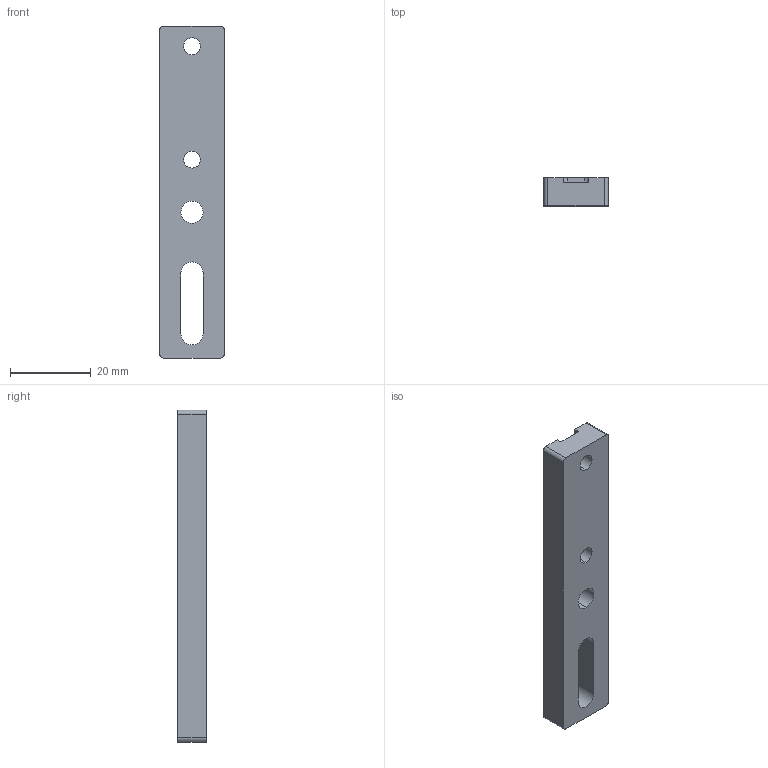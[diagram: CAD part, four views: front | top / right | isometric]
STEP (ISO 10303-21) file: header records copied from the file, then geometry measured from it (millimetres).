
FILE_DESCRIPTION (( 'STEP AP214' ), '1' );
FILE_NAME ('SMBE7-18M5.STEP', '2019-11-19T02:34:56', ( '微软用户' ), ( '微软中国' ), 'SwSTEP 2.0', 'SolidWorks 2016', '' );
FILE_SCHEMA (( 'AUTOMOTIVE_DESIGN' ));
Length unit declared in the file: millimetre
Products named in the file (1): SMBE7-18M5
Bounding box: 16 x 7 x 82 mm (x, y, z)
Volume: 7796.2 mm3; surface area: 4369.4 mm2
Topology: 1 solids, 1 shells, 27 faces, 75 edges, 50 vertices
Faces by surface type: cylinder 15, plane 12
Entity records: 973 total; most frequent: DIRECTION 161, CARTESIAN_POINT 153, ORIENTED_EDGE 150, EDGE_CURVE 75, AXIS2_PLACEMENT_3D 58, VERTEX_POINT 50, VECTOR 45, LINE 45
